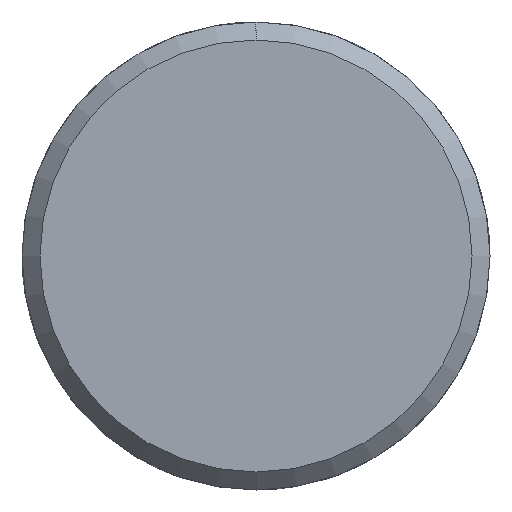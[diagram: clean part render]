
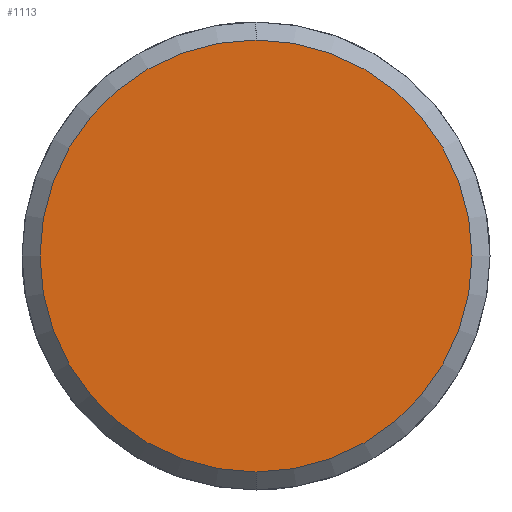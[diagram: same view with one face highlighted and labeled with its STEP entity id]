
A CAD part, left-side view. The second image highlights one B-rep face of the part: STEP entity #1113.
In plain terms, the highlighted planar face has unit normal (-1, 0, 0).
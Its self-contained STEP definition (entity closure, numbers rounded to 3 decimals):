
#1045=CARTESIAN_POINT('Vertex',(-5.,0.,-12.)) ;
#1048=CARTESIAN_POINT('Axis2P3D Location',(-5.,0.,0.)) ;
#1052=CARTESIAN_POINT('Vertex',(-5.,12.,0.)) ;
#1055=CARTESIAN_POINT('Axis2P3D Location',(-5.,0.,0.)) ;
#1059=CARTESIAN_POINT('Vertex',(-5.,0.,12.)) ;
#1081=CARTESIAN_POINT('Axis2P3D Location',(-5.,0.,0.)) ;
#1085=CARTESIAN_POINT('Vertex',(-5.,-12.,0.)) ;
#1088=CARTESIAN_POINT('Axis2P3D Location',(-5.,0.,0.)) ;
#1102=CARTESIAN_POINT('Axis2P3D Location',(-5.,0.,0.)) ;
#1049=DIRECTION('Axis2P3D Direction',(1.,0.,-0.)) ;
#1056=DIRECTION('Axis2P3D Direction',(1.,0.,-0.)) ;
#1082=DIRECTION('Axis2P3D Direction',(1.,0.,-0.)) ;
#1089=DIRECTION('Axis2P3D Direction',(1.,0.,-0.)) ;
#1103=DIRECTION('Axis2P3D Direction',(1.,0.,-0.)) ;
#1104=DIRECTION('Axis2P3D XDirection',(-0.,0.,-1.)) ;
#1050=AXIS2_PLACEMENT_3D('Circle Axis2P3D',#1048,#1049,$) ;
#1057=AXIS2_PLACEMENT_3D('Circle Axis2P3D',#1055,#1056,$) ;
#1083=AXIS2_PLACEMENT_3D('Circle Axis2P3D',#1081,#1082,$) ;
#1090=AXIS2_PLACEMENT_3D('Circle Axis2P3D',#1088,#1089,$) ;
#1105=AXIS2_PLACEMENT_3D('Plane Axis2P3D',#1102,#1103,#1104) ;
#1108=ORIENTED_EDGE('',*,*,#1054,.F.) ;
#1109=ORIENTED_EDGE('',*,*,#1092,.F.) ;
#1110=ORIENTED_EDGE('',*,*,#1087,.F.) ;
#1111=ORIENTED_EDGE('',*,*,#1061,.F.) ;
#1113=ADVANCED_FACE('351-16X96X160',(#1112),#1106,.F.) ;
#1051=CIRCLE('generated circle',#1050,12.) ;
#1058=CIRCLE('generated circle',#1057,12.) ;
#1084=CIRCLE('generated circle',#1083,12.) ;
#1091=CIRCLE('generated circle',#1090,12.) ;
#1054=EDGE_CURVE('',#1046,#1053,#1051,.T.) ;
#1061=EDGE_CURVE('',#1053,#1060,#1058,.T.) ;
#1087=EDGE_CURVE('',#1060,#1086,#1084,.T.) ;
#1092=EDGE_CURVE('',#1086,#1046,#1091,.T.) ;
#1107=EDGE_LOOP('',(#1108,#1109,#1110,#1111)) ;
#1112=FACE_OUTER_BOUND('',#1107,.T.) ;
#1106=PLANE('Plane',#1105) ;
#1046=VERTEX_POINT('',#1045) ;
#1053=VERTEX_POINT('',#1052) ;
#1060=VERTEX_POINT('',#1059) ;
#1086=VERTEX_POINT('',#1085) ;
